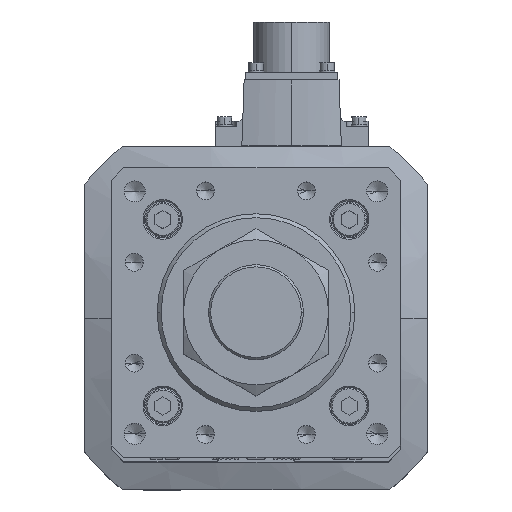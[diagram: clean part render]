
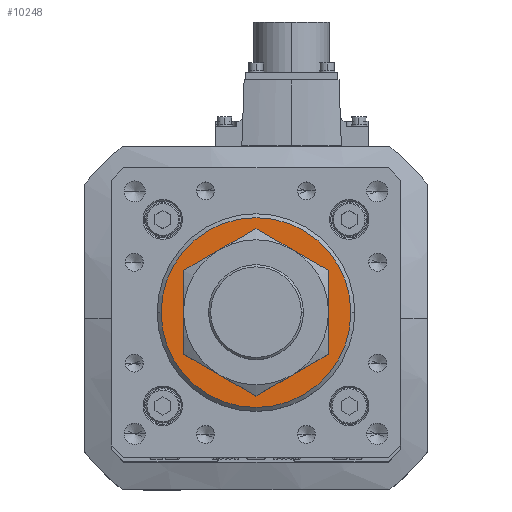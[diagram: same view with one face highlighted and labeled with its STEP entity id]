
A CAD part, top view. The second image highlights one B-rep face of the part: STEP entity #10248.
In plain terms, the highlighted planar face has unit normal (0, 0, 1).
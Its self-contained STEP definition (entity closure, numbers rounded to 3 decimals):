
#202 = DIRECTION ( 'NONE',  ( 1., 0., 0. ) ) ;
#210 = AXIS2_PLACEMENT_3D ( 'NONE', #3358, #14553, #202 ) ;
#479 = EDGE_CURVE ( 'NONE', #20195, #32448, #1431, .T. ) ;
#754 = DIRECTION ( 'NONE',  ( 1., 0., 0. ) ) ;
#1227 = DIRECTION ( 'NONE',  ( 1., 0., 0. ) ) ;
#1431 = CIRCLE ( 'NONE', #34781, 23. ) ;
#3358 = CARTESIAN_POINT ( 'NONE',  ( 0., 0., 946. ) ) ;
#4120 = DIRECTION ( 'NONE',  ( 0., 0., 1. ) ) ;
#4188 = CARTESIAN_POINT ( 'NONE',  ( -36., 0., 946. ) ) ;
#5170 = AXIS2_PLACEMENT_3D ( 'NONE', #9396, #29649, #754 ) ;
#5352 = CIRCLE ( 'NONE', #5170, 23. ) ;
#6921 = CARTESIAN_POINT ( 'NONE',  ( 0., 0., 946. ) ) ;
#8078 = CARTESIAN_POINT ( 'NONE',  ( 36., 0., 946. ) ) ;
#8378 = ORIENTED_EDGE ( 'NONE', *, *, #479, .T. ) ;
#8915 = ORIENTED_EDGE ( 'NONE', *, *, #34559, .T. ) ;
#9396 = CARTESIAN_POINT ( 'NONE',  ( 0., 0., 946. ) ) ;
#10248 = ADVANCED_FACE ( 'NONE', ( #30223, #37093 ), #14671, .T. ) ;
#12850 = VERTEX_POINT ( 'NONE', #8078 ) ;
#13803 = VERTEX_POINT ( 'NONE', #4188 ) ;
#14553 = DIRECTION ( 'NONE',  ( 0., 0., 1. ) ) ;
#14671 = PLANE ( 'NONE',  #210 ) ;
#15868 = EDGE_LOOP ( 'NONE', ( #8378, #25871 ) ) ;
#16356 = ORIENTED_EDGE ( 'NONE', *, *, #17120, .T. ) ;
#17120 = EDGE_CURVE ( 'NONE', #12850, #13803, #23800, .T. ) ;
#19459 = CARTESIAN_POINT ( 'NONE',  ( 23., 0., 946. ) ) ;
#20195 = VERTEX_POINT ( 'NONE', #19459 ) ;
#20575 = EDGE_LOOP ( 'NONE', ( #8915, #16356 ) ) ;
#21350 = DIRECTION ( 'NONE',  ( 1., 0., 0. ) ) ;
#23287 = CARTESIAN_POINT ( 'NONE',  ( 0., 0., 946. ) ) ;
#23800 = CIRCLE ( 'NONE', #25479, 36. ) ;
#25479 = AXIS2_PLACEMENT_3D ( 'NONE', #30024, #26952, #21350 ) ;
#25871 = ORIENTED_EDGE ( 'NONE', *, *, #27564, .T. ) ;
#26952 = DIRECTION ( 'NONE',  ( 0., 0., 1. ) ) ;
#27564 = EDGE_CURVE ( 'NONE', #32448, #20195, #5352, .T. ) ;
#29408 = DIRECTION ( 'NONE',  ( 0., 0., -1. ) ) ;
#29649 = DIRECTION ( 'NONE',  ( 0., 0., -1. ) ) ;
#29774 = CARTESIAN_POINT ( 'NONE',  ( -23., 0., 946. ) ) ;
#30024 = CARTESIAN_POINT ( 'NONE',  ( 0., 0., 946. ) ) ;
#30219 = CIRCLE ( 'NONE', #36863, 36. ) ;
#30223 = FACE_BOUND ( 'NONE', #15868, .T. ) ;
#32448 = VERTEX_POINT ( 'NONE', #29774 ) ;
#32819 = DIRECTION ( 'NONE',  ( 1., 0., 0. ) ) ;
#34559 = EDGE_CURVE ( 'NONE', #13803, #12850, #30219, .T. ) ;
#34781 = AXIS2_PLACEMENT_3D ( 'NONE', #23287, #29408, #32819 ) ;
#36863 = AXIS2_PLACEMENT_3D ( 'NONE', #6921, #4120, #1227 ) ;
#37093 = FACE_OUTER_BOUND ( 'NONE', #20575, .T. ) ;
